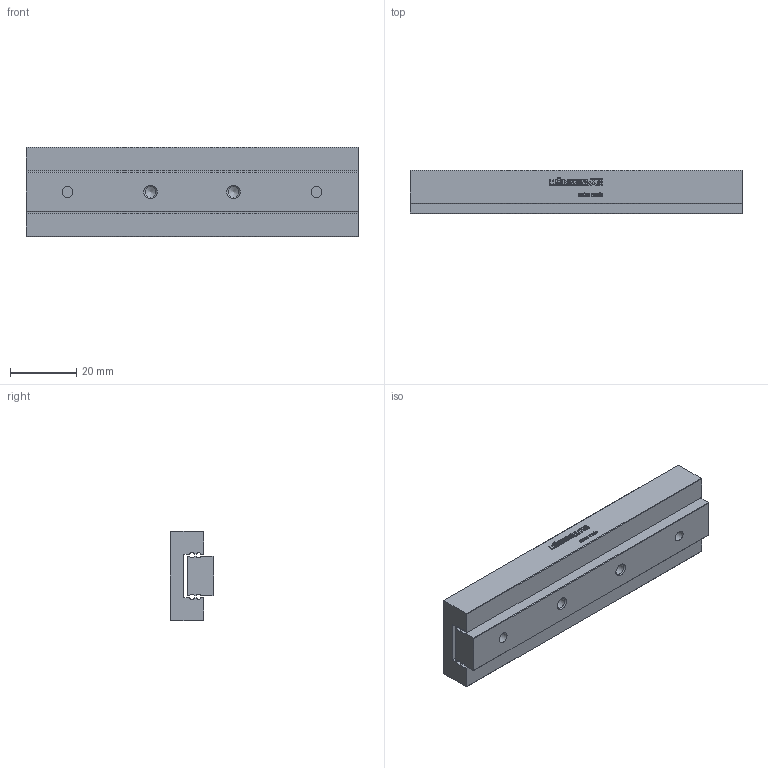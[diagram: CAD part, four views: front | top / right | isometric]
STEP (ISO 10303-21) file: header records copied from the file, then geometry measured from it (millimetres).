
FILE_DESCRIPTION(/* description */ ('STEP AP214'),/* implementation_level */ '2;1');
FILE_NAME(/* name */ 'MSK 12-100.82(0)',/* time_stamp */ '2025-04-16T17:04:03+02:00',/* author */ ('License CC BY-ND 4.0'),/* organization */ ('CADENAS'),/* preprocessor_version */ 'ST-DEVELOPER v19.3',/* originating_system */ 'PARTsolutions',/* authorisation */ ' ');
FILE_SCHEMA (('AUTOMOTIVE_DESIGN {1 0 10303 214 3 1 1}'));
Length unit declared in the file: millimetre
Products named in the file (3): MSK 12-100.82(0); MSK 12-100.82_1; MSK 12-100.82_2
Assembly tree (2 placements, depth 2):
  MSK 12-100.82(0)
    MSK 12-100.82_1
    MSK 12-100.82_2
Bounding box: 100 x 13 x 27 mm (x, y, z)
Volume: 27634.6 mm3; surface area: 14279.6 mm2
Topology: 2 solids, 2 shells, 551 faces, 1502 edges, 996 vertices
Faces by surface type: cylinder 318, plane 217, cone 16
Full cylindrical faces by diameter (mm): 2.459 x12, 3.242 x4, 6 x2
Entity records: 17561 total; most frequent: DIRECTION 3224, CARTESIAN_POINT 3016, ORIENTED_EDGE 2932, EDGE_CURVE 1466, AXIS2_PLACEMENT_3D 1204, VERTEX_POINT 996, LINE 816, VECTOR 816
